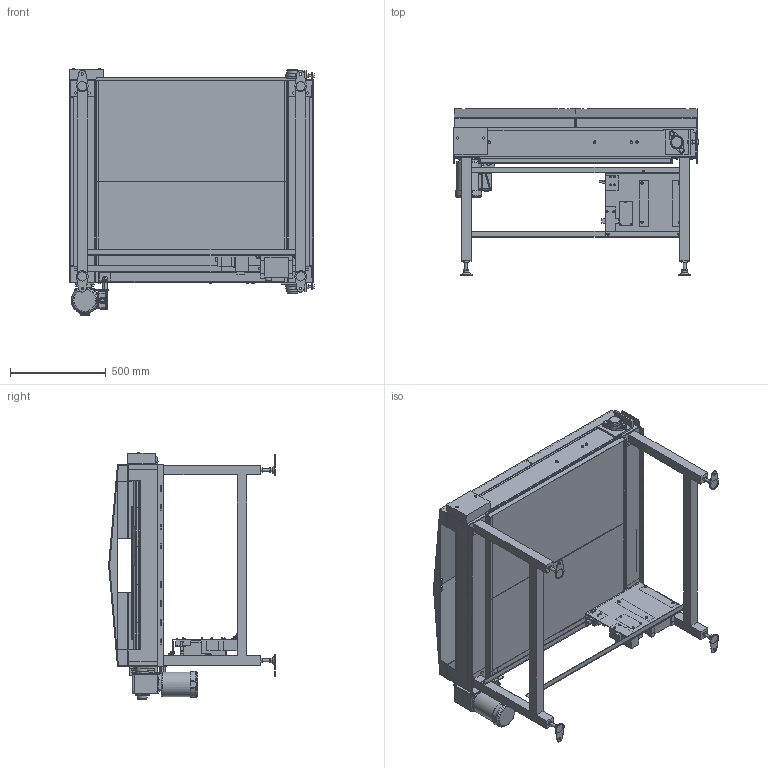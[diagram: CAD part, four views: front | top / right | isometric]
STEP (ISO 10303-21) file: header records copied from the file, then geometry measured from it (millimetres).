
FILE_DESCRIPTION( (''), '2;1');
FILE_NAME ('WEB-SLS-H-340-4-200-200-R-IVH-7.5.stp','2026-08-20T09:03:51',(''),(''),'spGate 21.9.5 (****-****-****-****)','','');
FILE_SCHEMA (('AUTOMOTIVE_DESIGN'));
Length unit declared in the file: millimetre
Products named in the file (85): WEB-SLS-H-340-4-200-200-R-IVH-7.5; TEMP_X_T-prt0; TEMP_X_T-prt1; TEMP_X_T-prt2; TEMP_X_T-prt3; TEMP_X_T-prt4; TEMP_X_T-prt5; TEMP_X_T-prt6; TEMP_X_T-prt7; TEMP_X_T-prt8; TEMP_X_T-prt9; TEMP_X_T-prt10; TEMP_X_T-prt11; TEMP_X_T-prt12; TEMP_X_T-prt13; TEMP_X_T-prt14; TEMP_X_T-prt15; TEMP_X_T-prt16; TEMP_X_T-prt17; TEMP_X_T-prt18; TEMP_X_T-prt19; TEMP_X_T-prt20; TEMP_X_T-prt21; TEMP_X_T-prt22; TEMP_X_T-prt23; TEMP_X_T-prt24; TEMP_X_T-prt25; TEMP_X_T-prt26; TEMP_X_T-prt27; TEMP_X_T-prt28; TEMP_X_T-prt29; TEMP_X_T-prt30; TEMP_X_T-prt31; TEMP_X_T-prt32; TEMP_X_T-prt33; TEMP_X_T-prt34; TEMP_X_T-prt35; TEMP_X_T-prt36; TEMP_X_T-prt37; TEMP_X_T-prt38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
Assembly tree (84 placements, depth 2):
  WEB-SLS-H-340-4-200-200-R-IVH-7.5
    TEMP_X_T-prt0
    TEMP_X_T-prt1
    TEMP_X_T-prt2
    TEMP_X_T-prt3
    TEMP_X_T-prt4
    TEMP_X_T-prt5
    TEMP_X_T-prt6
    TEMP_X_T-prt7
    TEMP_X_T-prt8
    TEMP_X_T-prt9
    TEMP_X_T-prt10
    TEMP_X_T-prt11
    TEMP_X_T-prt12
    TEMP_X_T-prt13
    TEMP_X_T-prt14
    TEMP_X_T-prt15
    TEMP_X_T-prt16
    TEMP_X_T-prt17
    TEMP_X_T-prt18
    TEMP_X_T-prt19
    TEMP_X_T-prt20
    TEMP_X_T-prt21
    TEMP_X_T-prt22
    TEMP_X_T-prt23
    TEMP_X_T-prt24
    TEMP_X_T-prt25
    TEMP_X_T-prt26
    TEMP_X_T-prt27
    TEMP_X_T-prt28
    TEMP_X_T-prt29
    TEMP_X_T-prt30
    TEMP_X_T-prt31
    TEMP_X_T-prt32
    TEMP_X_T-prt33
    TEMP_X_T-prt34
    TEMP_X_T-prt35
    TEMP_X_T-prt36
    TEMP_X_T-prt37
    TEMP_X_T-prt38
    TEMP_X_T-prt39
    TEMP_X_T-prt40
    TEMP_X_T-prt41
    TEMP_X_T-prt42
    TEMP_X_T-prt43
    TEMP_X_T-prt44
    TEMP_X_T-prt45
    TEMP_X_T-prt46
    TEMP_X_T-prt47
    TEMP_X_T-prt48
    TEMP_X_T-prt49
    TEMP_X_T-prt50
    TEMP_X_T-prt51
    TEMP_X_T-prt52
    TEMP_X_T-prt53
    TEMP_X_T-prt54
    TEMP_X_T-prt55
    TEMP_X_T-prt56
    TEMP_X_T-prt57
    TEMP_X_T-prt58
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Bounding box: 1276 x 870.6 x 1289.5 mm (x, y, z)
Volume: 70040780.9 mm3; surface area: 15573195.5 mm2
Topology: 84 solids, 84 shells, 3045 faces, 8363 edges, 5293 vertices
Faces by surface type: plane 2368, cylinder 558, bspline 115, sphere 4
Full cylindrical faces by diameter (mm): 4 x14, 4.15 x1, 5 x4, 6 x14, 8 x6, 8.376 x4, 8.5 x8, 9 x4, 9.2 x5, 10.5 x4, 11 x4, 11.8 x4, 12 x2, 12.2 x20, 12.5 x23, 13 x8, 14 x8, 15.4 x1, 16 x16, 18 x1, 20 x1, 21 x6, 22.2 x1, 23 x1, 24 x1, 25 x1, 28 x1, 30 x1, 30.5 x1, 34 x1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
Entity records: 166772 total; most frequent: CARTESIAN_POINT 20664, ORIENTED_EDGE 16718, DIRECTION 15704, COLOUR_RGB 11488, PRESENTATION_STYLE_ASSIGNMENT 11488, STYLED_ITEM 11488, EDGE_CURVE 8359, DRAUGHTING_PRE_DEFINED_CURVE_FONT 8359
